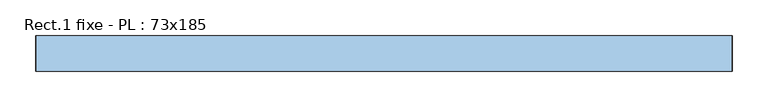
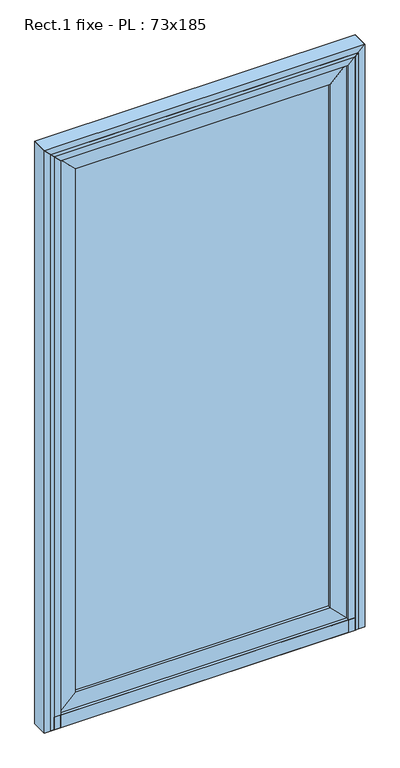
"""IFC4 building model written with IfcOpenShell, lengths in millimetres: window geometry, Rect.1 fixe - PL : 73x185."""

from ifc_helpers import new_model, si_unit, frame, origin, origin_with_axes, place, context, project, spatial, polyline, outline, extrude, source, transform, mapped, element, save


def rect_1_fixe_pl_73x185_0a31fc91(model_context):
    return source(origin(), model_context, "Body", "SweptSolid", [
        extrude(outline(polyline([(390.0, -10.0), (390.0, -30.0), (-390.0, -30.0), (-390.0, -10.0), (390.0, -10.0)])), frame((0.0, 0.0, 90.0), z_axis=(0.0, 0.0, 1.0), x_axis=(1.0, 0.0, 0.0)), (0.0, 0.0, 1.0), 1690.0),
        extrude(outline(polyline([(40.0, -440.0), (90.0, -390.0), (1780.0, -390.0), (1830.0, -440.0), (40.0, -440.0)])), frame((0.0, -40.0, 0.0), z_axis=(0.0, 1.0, 0.0), x_axis=(0.0, 0.0, 1.0)), (0.0, 0.0, 1.0), 40.0),
        extrude(outline(polyline([(90.0, 390.0), (40.0, 440.0), (1830.0, 440.0), (1780.0, 390.0), (90.0, 390.0)])), frame((0.0, -40.0, 0.0), z_axis=(0.0, 1.0, 0.0), x_axis=(0.0, 0.0, 1.0)), (0.0, 0.0, 1.0), 40.0),
        extrude(outline(polyline([(1830.0, 440.0), (1830.0, -440.0), (1780.0, -390.0), (1780.0, 390.0), (1830.0, 440.0)])), frame((0.0, -40.0, 0.0), z_axis=(0.0, 1.0, 0.0), x_axis=(0.0, 0.0, 1.0)), (0.0, 0.0, 1.0), 40.0),
        extrude(outline(polyline([(40.0, 440.0), (90.0, 390.0), (90.0, -390.0), (40.0, -440.0), (40.0, 440.0)])), frame((0.0, -40.0, 0.0), z_axis=(0.0, 1.0, 0.0), x_axis=(0.0, 0.0, 1.0)), (0.0, 0.0, 1.0), 40.0),
        extrude(outline(polyline([(440.0, -50.0), (-440.0, -50.0), (-440.0, 0.0), (440.0, 0.0), (440.0, -50.0)])), origin_with_axes(), (0.0, 0.0, 1.0), 40.0),
        extrude(outline(polyline([(-20.0, 30.0), (-20.0, 0.0), (-50.0, 0.0), (-50.0, 40.0), (-20.0, 30.0)])), frame((-460.0, 0.0, 0.0), z_axis=(1.0, 0.0, 0.0), x_axis=(0.0, 1.0, 0.0)), (0.0, 0.0, 1.0), 920.0),
        extrude(outline(polyline([(1860.0, 470.0), (1850.0, 460.0), (0.0, 460.0), (0.0, 470.0), (1860.0, 470.0)])), frame((0.0, -50.0, 0.0), z_axis=(0.0, 1.0, 0.0), x_axis=(0.0, 0.0, 1.0)), (0.0, 0.0, 1.0), 40.0),
        extrude(outline(polyline([(1860.0, -470.0), (0.0, -470.0), (0.0, -460.0), (1850.0, -460.0), (1860.0, -470.0)])), frame((0.0, -50.0, 0.0), z_axis=(0.0, 1.0, 0.0), x_axis=(0.0, 0.0, 1.0)), (0.0, 0.0, 1.0), 40.0),
        extrude(outline(polyline([(0.0, -490.0), (0.0, -440.0), (1830.0, -440.0), (1880.0, -490.0), (0.0, -490.0)])), frame((0.0, -50.0, 0.0), z_axis=(0.0, 1.0, 0.0), x_axis=(0.0, 0.0, 1.0)), (0.0, 0.0, 1.0), 50.0),
        extrude(outline(polyline([(0.0, 490.0), (1880.0, 490.0), (1830.0, 440.0), (0.0, 440.0), (0.0, 490.0)])), frame((0.0, -50.0, 0.0), z_axis=(0.0, 1.0, 0.0), x_axis=(0.0, 0.0, 1.0)), (0.0, 0.0, 1.0), 50.0),
        extrude(outline(polyline([(1860.0, -470.0), (1850.0, -460.0), (1850.0, 460.0), (1860.0, 470.0), (1860.0, -470.0)])), frame((0.0, -50.0, 0.0), z_axis=(0.0, 1.0, 0.0), x_axis=(0.0, 0.0, 1.0)), (0.0, 0.0, 1.0), 40.0),
        extrude(outline(polyline([(1880.0, 490.0), (1880.0, -490.0), (1830.0, -440.0), (1830.0, 440.0), (1880.0, 490.0)])), frame((0.0, -50.0, 0.0), z_axis=(0.0, 1.0, 0.0), x_axis=(0.0, 0.0, 1.0)), (0.0, 0.0, 1.0), 50.0),
    ])


if __name__ == "__main__":
    model = new_model("IFC4")
    model_context = context("Model", 3, world=origin())
    ifc_project = project(units=[si_unit("LENGTHUNIT", "METRE", prefix="MILLI")], contexts=[model_context])
    site = spatial("IfcSite", under=ifc_project)
    building = spatial("IfcBuilding", under=site)
    placement = place(None, origin())
    rect_1_fixe_pl_73x185_shape = rect_1_fixe_pl_73x185_0a31fc91(model_context)
    element("IfcWindow", 1, ObjectType="Rect.1 fixe - PL : 73x185", at=placement, inside=building, context=model_context, shape_type="MappedRepresentation", body=[
        mapped(rect_1_fixe_pl_73x185_shape, transform((0.0, 0.0, 0.0), x_axis=(1.0, 0.0, 0.0), y_axis=(0.0, 1.0, 0.0), z_axis=(0.0, 0.0, 1.0))),
    ])
    save(model, "model.ifc")
